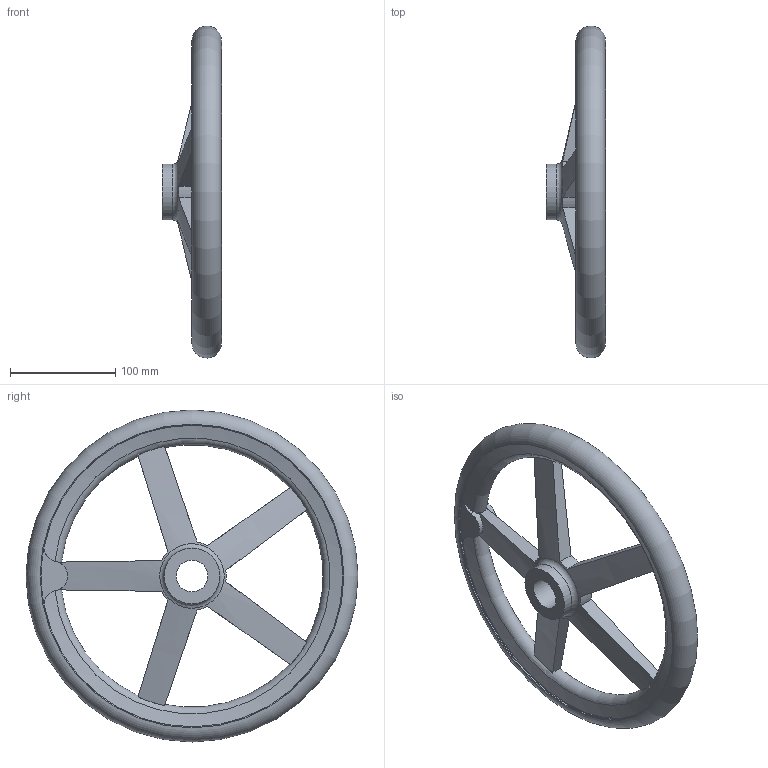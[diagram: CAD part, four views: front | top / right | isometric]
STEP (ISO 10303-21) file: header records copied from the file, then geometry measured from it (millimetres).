
FILE_DESCRIPTION( ( 'STEP AP203' ), '1' );
FILE_NAME( 'C:/Temp/Ganter_Step_05_03_2020/data/1_3/din_950/din_950_b/din_950_b_a/Handwheel DIN 950-AL-315-B30-A.stp', '2020-03-05T10:29:27', ( 'License CC BY-ND 4.0' ), ( 'CADENAS' ), ' ', 'PARTsolutions', ' ' );
FILE_SCHEMA( ( 'CONFIG_CONTROL_DESIGN' ) );
Length unit declared in the file: millimetre
Products named in the file (1): _Handwheel DIN 950-AL-315-B30-A
Bounding box: 56 x 314.99 x 314.99 mm (x, y, z)
Volume: 805848.7 mm3; surface area: 136231.4 mm2
Topology: 1 solids, 1 shells, 54 faces, 164 edges, 106 vertices
Faces by surface type: torus 20, cylinder 16, plane 14, cone 4
Full cylindrical faces by diameter (mm): 30 x1, 53 x2, 287 x2
Entity records: 2363 total; most frequent: CARTESIAN_POINT 997, ORIENTED_EDGE 292, DIRECTION 244, EDGE_CURVE 146, AXIS2_PLACEMENT_3D 115, VERTEX_POINT 103, EDGE_LOOP 74, B_SPLINE_CURVE_WITH_KNOTS 72
